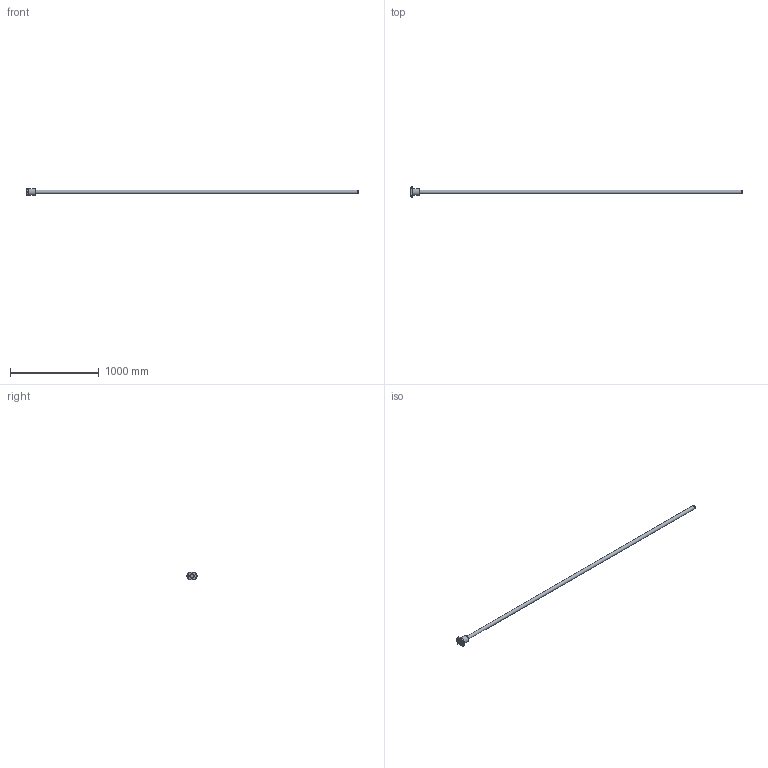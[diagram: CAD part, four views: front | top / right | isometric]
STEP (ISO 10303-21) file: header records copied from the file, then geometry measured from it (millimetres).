
FILE_DESCRIPTION( ( 'STEP AP203' ), ' ' );
FILE_NAME( 'p:/temp/worker_20/2584_100/app_67_12018011810531979142769818fa3fd_000000_00_00_000000/format_0/BTK 4010V-5.3ZZ+3745LT_36250.stp', '2018-01-18T09:53:20', ( '' ), ( '' ), ' ', 'PARTsolutions', ' ' );
FILE_SCHEMA( ( 'CONFIG_CONTROL_DESIGN' ) );
Length unit declared in the file: millimetre
Products named in the file (3): BTK 4010V-5.3ZZ+3745LT_36250; _BTK 4010V-5.33625 Shaft; _BTK 4010V-5.3ZZ Nut
Assembly tree (2 placements, depth 2):
  BTK 4010V-5.3ZZ+3745LT_36250
    _BTK 4010V-5.33625 Shaft
    _BTK 4010V-5.3ZZ Nut
Bounding box: 3745 x 116 x 88 mm (x, y, z)
Volume: 5089846.9 mm3; surface area: 532366.2 mm2
Topology: 2 solids, 2 shells, 39 faces, 84 edges, 55 vertices
Faces by surface type: cylinder 17, plane 14, cone 8
Full cylindrical faces by diameter (mm): 4.917 x1, 11 x4, 32 x2, 40 x4, 48 x2, 68.4 x1, 76 x1
Entity records: 1204 total; most frequent: CARTESIAN_POINT 305, DIRECTION 174, ORIENTED_EDGE 122, AXIS2_PLACEMENT_3D 82, EDGE_LOOP 76, EDGE_CURVE 61, FACE_OUTER_BOUND 54, VERTEX_POINT 51
